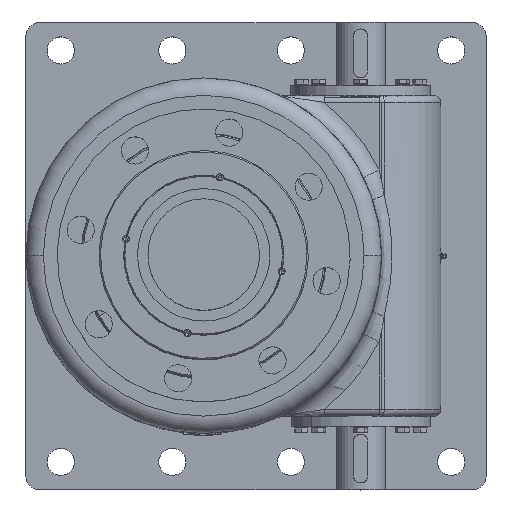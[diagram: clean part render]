
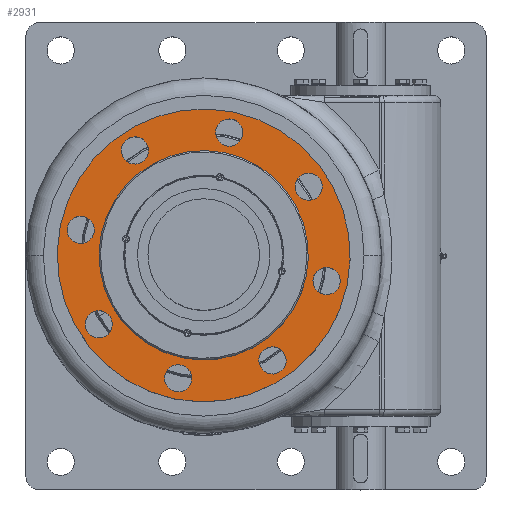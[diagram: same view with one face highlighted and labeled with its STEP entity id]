
A CAD part, top view. The second image highlights one B-rep face of the part: STEP entity #2931.
In plain terms, the highlighted planar face has unit normal (0, 0, 1).
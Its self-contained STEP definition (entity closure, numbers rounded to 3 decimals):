
#2931=ADVANCED_FACE('',(#8640,#8641,#8642,#8643,#8644,#8645,#8646,#8647,#8648,#8649),#8650,.T.);
#8640=FACE_OUTER_BOUND('',#23649,.T.);
#8641=FACE_BOUND('',#23650,.T.);
#8642=FACE_BOUND('',#23651,.T.);
#8643=FACE_BOUND('',#23652,.T.);
#8644=FACE_BOUND('',#23653,.T.);
#8645=FACE_BOUND('',#23654,.T.);
#8646=FACE_BOUND('',#23655,.T.);
#8647=FACE_BOUND('',#23656,.T.);
#8648=FACE_BOUND('',#23657,.T.);
#8649=FACE_BOUND('',#23658,.T.);
#8650=PLANE('',#23659);
#23649=EDGE_LOOP('',(#46145,#46146));
#23650=EDGE_LOOP('',(#46147,#46148));
#23651=EDGE_LOOP('',(#46149,#46150));
#23652=EDGE_LOOP('',(#46151,#46152));
#23653=EDGE_LOOP('',(#46153,#46154));
#23654=EDGE_LOOP('',(#46155,#46156));
#23655=EDGE_LOOP('',(#46157,#46158));
#23656=EDGE_LOOP('',(#46159,#46160));
#23657=EDGE_LOOP('',(#46161,#46162));
#23658=EDGE_LOOP('',(#46163,#46164));
#23659=AXIS2_PLACEMENT_3D('',#46165,#46166,#46167);
#46145=ORIENTED_EDGE('',*,*,#53889,.T.);
#46146=ORIENTED_EDGE('',*,*,#53616,.T.);
#46147=ORIENTED_EDGE('',*,*,#53898,.T.);
#46148=ORIENTED_EDGE('',*,*,#53605,.T.);
#46149=ORIENTED_EDGE('',*,*,#53899,.T.);
#46150=ORIENTED_EDGE('',*,*,#53601,.T.);
#46151=ORIENTED_EDGE('',*,*,#53900,.T.);
#46152=ORIENTED_EDGE('',*,*,#53597,.T.);
#46153=ORIENTED_EDGE('',*,*,#53901,.T.);
#46154=ORIENTED_EDGE('',*,*,#53593,.T.);
#46155=ORIENTED_EDGE('',*,*,#53902,.T.);
#46156=ORIENTED_EDGE('',*,*,#53589,.T.);
#46157=ORIENTED_EDGE('',*,*,#53903,.T.);
#46158=ORIENTED_EDGE('',*,*,#53585,.T.);
#46159=ORIENTED_EDGE('',*,*,#53904,.T.);
#46160=ORIENTED_EDGE('',*,*,#53581,.T.);
#46161=ORIENTED_EDGE('',*,*,#53905,.T.);
#46162=ORIENTED_EDGE('',*,*,#53577,.T.);
#46163=ORIENTED_EDGE('',*,*,#53897,.F.);
#46164=ORIENTED_EDGE('',*,*,#53607,.F.);
#46165=CARTESIAN_POINT('',(176.221,-36.691,652.5));
#46166=DIRECTION('',(0.0,-0.0,1.0));
#46167=DIRECTION('',(0.707,0.707,0.0));
#53577=EDGE_CURVE('',#65750,#65754,#65756,.T.);
#53581=EDGE_CURVE('',#65758,#65762,#65764,.T.);
#53585=EDGE_CURVE('',#65766,#65770,#65772,.T.);
#53589=EDGE_CURVE('',#65774,#65778,#65780,.T.);
#53593=EDGE_CURVE('',#65782,#65786,#65788,.T.);
#53597=EDGE_CURVE('',#65790,#65794,#65796,.T.);
#53601=EDGE_CURVE('',#65798,#65802,#65804,.T.);
#53605=EDGE_CURVE('',#65806,#65810,#65812,.T.);
#53607=EDGE_CURVE('',#65813,#65816,#65817,.T.);
#53616=EDGE_CURVE('',#65827,#65831,#65833,.T.);
#53889=EDGE_CURVE('',#65831,#65827,#66273,.T.);
#53897=EDGE_CURVE('',#65816,#65813,#66282,.T.);
#53898=EDGE_CURVE('',#65810,#65806,#66283,.T.);
#53899=EDGE_CURVE('',#65802,#65798,#66284,.T.);
#53900=EDGE_CURVE('',#65794,#65790,#66285,.T.);
#53901=EDGE_CURVE('',#65786,#65782,#66286,.T.);
#53902=EDGE_CURVE('',#65778,#65774,#66287,.T.);
#53903=EDGE_CURVE('',#65770,#65766,#66288,.T.);
#53904=EDGE_CURVE('',#65762,#65758,#66289,.T.);
#53905=EDGE_CURVE('',#65754,#65750,#66290,.T.);
#65750=VERTEX_POINT('',#92789);
#65754=VERTEX_POINT('',#92794);
#65756=CIRCLE('',#92797,19.5);
#65758=VERTEX_POINT('',#92799);
#65762=VERTEX_POINT('',#92804);
#65764=CIRCLE('',#92807,19.5);
#65766=VERTEX_POINT('',#92809);
#65770=VERTEX_POINT('',#92814);
#65772=CIRCLE('',#92817,19.5);
#65774=VERTEX_POINT('',#92819);
#65778=VERTEX_POINT('',#92824);
#65780=CIRCLE('',#92827,19.5);
#65782=VERTEX_POINT('',#92829);
#65786=VERTEX_POINT('',#92834);
#65788=CIRCLE('',#92837,19.5);
#65790=VERTEX_POINT('',#92839);
#65794=VERTEX_POINT('',#92844);
#65796=CIRCLE('',#92847,19.5);
#65798=VERTEX_POINT('',#92849);
#65802=VERTEX_POINT('',#92854);
#65804=CIRCLE('',#92857,19.5);
#65806=VERTEX_POINT('',#92859);
#65810=VERTEX_POINT('',#92864);
#65812=CIRCLE('',#92867,19.5);
#65813=VERTEX_POINT('',#92868);
#65816=VERTEX_POINT('',#92872);
#65817=CIRCLE('',#92873,150.);
#65827=VERTEX_POINT('',#92886);
#65831=VERTEX_POINT('',#92891);
#65833=CIRCLE('',#92894,210.);
#66273=CIRCLE('',#93718,210.);
#66282=CIRCLE('',#93727,150.);
#66283=CIRCLE('',#93728,19.5);
#66284=CIRCLE('',#93729,19.5);
#66285=CIRCLE('',#93730,19.5);
#66286=CIRCLE('',#93731,19.5);
#66287=CIRCLE('',#93732,19.5);
#66288=CIRCLE('',#93733,19.5);
#66289=CIRCLE('',#93734,19.5);
#66290=CIRCLE('',#93735,19.5);
#92789=CARTESIAN_POINT('',(40.666,195.311,652.5));
#92794=CARTESIAN_POINT('',(32.716,157.13,652.5));
#92797=AXIS2_PLACEMENT_3D('',#107143,#107144,#107145);
#92799=CARTESIAN_POINT('',(-109.351,166.861,652.5));
#92804=CARTESIAN_POINT('',(-87.974,134.242,652.5));
#92807=AXIS2_PLACEMENT_3D('',#107151,#107152,#107153);
#92809=CARTESIAN_POINT('',(-195.311,40.666,652.5));
#92814=CARTESIAN_POINT('',(-157.13,32.716,652.5));
#92817=AXIS2_PLACEMENT_3D('',#107159,#107160,#107161);
#92819=CARTESIAN_POINT('',(-166.861,-109.351,652.5));
#92824=CARTESIAN_POINT('',(-134.242,-87.974,652.5));
#92827=AXIS2_PLACEMENT_3D('',#107167,#107168,#107169);
#92829=CARTESIAN_POINT('',(-40.666,-195.311,652.5));
#92834=CARTESIAN_POINT('',(-32.716,-157.13,652.5));
#92837=AXIS2_PLACEMENT_3D('',#107175,#107176,#107177);
#92839=CARTESIAN_POINT('',(109.351,-166.861,652.5));
#92844=CARTESIAN_POINT('',(87.974,-134.242,652.5));
#92847=AXIS2_PLACEMENT_3D('',#107183,#107184,#107185);
#92849=CARTESIAN_POINT('',(195.311,-40.666,652.5));
#92854=CARTESIAN_POINT('',(157.13,-32.716,652.5));
#92857=AXIS2_PLACEMENT_3D('',#107191,#107192,#107193);
#92859=CARTESIAN_POINT('',(166.861,109.351,652.5));
#92864=CARTESIAN_POINT('',(134.242,87.974,652.5));
#92867=AXIS2_PLACEMENT_3D('',#107199,#107200,#107201);
#92868=CARTESIAN_POINT('',(146.851,-30.576,652.5));
#92872=CARTESIAN_POINT('',(-146.851,30.576,652.5));
#92873=AXIS2_PLACEMENT_3D('',#107203,#107204,#107205);
#92886=CARTESIAN_POINT('',(205.591,-42.806,652.5));
#92891=CARTESIAN_POINT('',(-205.591,42.806,652.5));
#92894=AXIS2_PLACEMENT_3D('',#107220,#107221,#107222);
#93718=AXIS2_PLACEMENT_3D('',#107709,#107710,#107711);
#93727=AXIS2_PLACEMENT_3D('',#107733,#107734,#107735);
#93728=AXIS2_PLACEMENT_3D('',#107736,#107737,#107738);
#93729=AXIS2_PLACEMENT_3D('',#107739,#107740,#107741);
#93730=AXIS2_PLACEMENT_3D('',#107742,#107743,#107744);
#93731=AXIS2_PLACEMENT_3D('',#107745,#107746,#107747);
#93732=AXIS2_PLACEMENT_3D('',#107748,#107749,#107750);
#93733=AXIS2_PLACEMENT_3D('',#107751,#107752,#107753);
#93734=AXIS2_PLACEMENT_3D('',#107754,#107755,#107756);
#93735=AXIS2_PLACEMENT_3D('',#107757,#107758,#107759);
#107143=CARTESIAN_POINT('',(36.691,176.221,652.5));
#107144=DIRECTION('',(0.0,0.0,-1.0));
#107145=DIRECTION('',(0.204,0.979,0.0));
#107151=CARTESIAN_POINT('',(-98.663,150.551,652.5));
#107152=DIRECTION('',(0.0,0.0,-1.0));
#107153=DIRECTION('',(-0.548,0.836,0.0));
#107159=CARTESIAN_POINT('',(-176.221,36.691,652.5));
#107160=DIRECTION('',(0.0,0.0,-1.0));
#107161=DIRECTION('',(-0.979,0.204,0.0));
#107167=CARTESIAN_POINT('',(-150.551,-98.663,652.5));
#107168=DIRECTION('',(-0.0,0.0,-1.0));
#107169=DIRECTION('',(-0.836,-0.548,0.0));
#107175=CARTESIAN_POINT('',(-36.691,-176.221,652.5));
#107176=DIRECTION('',(-0.0,0.0,-1.0));
#107177=DIRECTION('',(-0.204,-0.979,0.0));
#107183=CARTESIAN_POINT('',(98.663,-150.551,652.5));
#107184=DIRECTION('',(0.0,0.0,-1.0));
#107185=DIRECTION('',(0.548,-0.836,0.0));
#107191=CARTESIAN_POINT('',(176.221,-36.691,652.5));
#107192=DIRECTION('',(0.0,0.0,-1.0));
#107193=DIRECTION('',(0.979,-0.204,0.0));
#107199=CARTESIAN_POINT('',(150.551,98.663,652.5));
#107200=DIRECTION('',(0.0,0.0,-1.0));
#107201=DIRECTION('',(0.836,0.548,0.0));
#107203=CARTESIAN_POINT('',(0.0,0.0,652.5));
#107204=DIRECTION('',(0.0,0.0,1.0));
#107205=DIRECTION('',(0.979,-0.204,0.0));
#107220=CARTESIAN_POINT('',(0.0,0.0,652.5));
#107221=DIRECTION('',(0.0,0.0,1.0));
#107222=DIRECTION('',(0.979,-0.204,0.0));
#107709=CARTESIAN_POINT('',(0.0,0.0,652.5));
#107710=DIRECTION('',(0.0,0.0,1.0));
#107711=DIRECTION('',(0.979,-0.204,0.0));
#107733=CARTESIAN_POINT('',(0.0,0.0,652.5));
#107734=DIRECTION('',(0.0,0.0,1.0));
#107735=DIRECTION('',(0.979,-0.204,0.0));
#107736=CARTESIAN_POINT('',(150.551,98.663,652.5));
#107737=DIRECTION('',(0.0,0.0,-1.0));
#107738=DIRECTION('',(0.836,0.548,0.0));
#107739=CARTESIAN_POINT('',(176.221,-36.691,652.5));
#107740=DIRECTION('',(0.0,0.0,-1.0));
#107741=DIRECTION('',(0.979,-0.204,0.0));
#107742=CARTESIAN_POINT('',(98.663,-150.551,652.5));
#107743=DIRECTION('',(0.0,0.0,-1.0));
#107744=DIRECTION('',(0.548,-0.836,0.0));
#107745=CARTESIAN_POINT('',(-36.691,-176.221,652.5));
#107746=DIRECTION('',(-0.0,0.0,-1.0));
#107747=DIRECTION('',(-0.204,-0.979,0.0));
#107748=CARTESIAN_POINT('',(-150.551,-98.663,652.5));
#107749=DIRECTION('',(-0.0,0.0,-1.0));
#107750=DIRECTION('',(-0.836,-0.548,0.0));
#107751=CARTESIAN_POINT('',(-176.221,36.691,652.5));
#107752=DIRECTION('',(0.0,0.0,-1.0));
#107753=DIRECTION('',(-0.979,0.204,0.0));
#107754=CARTESIAN_POINT('',(-98.663,150.551,652.5));
#107755=DIRECTION('',(0.0,0.0,-1.0));
#107756=DIRECTION('',(-0.548,0.836,0.0));
#107757=CARTESIAN_POINT('',(36.691,176.221,652.5));
#107758=DIRECTION('',(0.0,0.0,-1.0));
#107759=DIRECTION('',(0.204,0.979,0.0));
